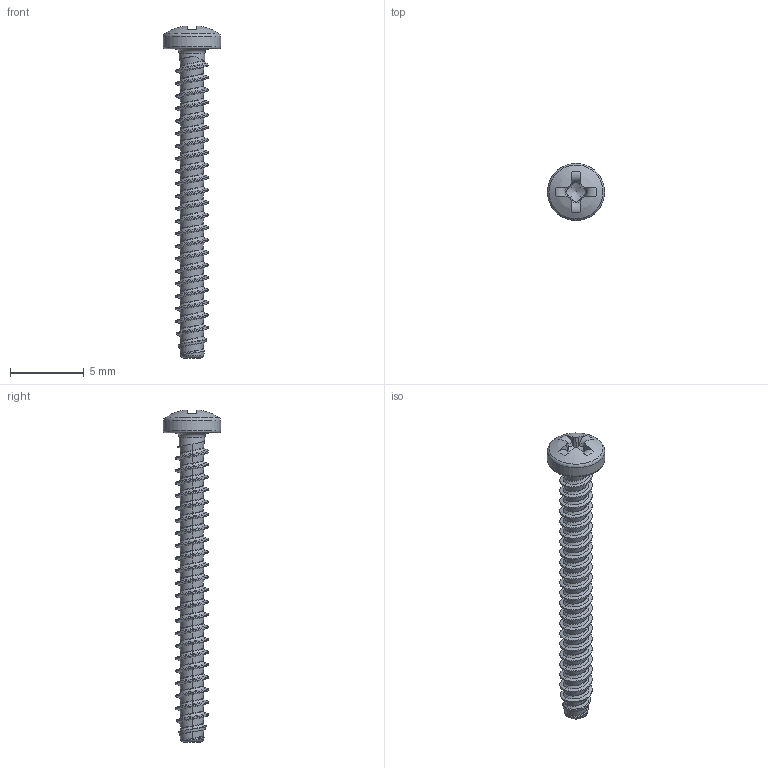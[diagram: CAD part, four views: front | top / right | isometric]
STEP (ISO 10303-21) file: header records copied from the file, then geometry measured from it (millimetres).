
FILE_DESCRIPTION(/* description */ (''),/* implementation_level */ '2;1');
FILE_NAME(/* name */ 'KN6032-STSplus-22x21-H1.step',/* time_stamp */ '2017-10-10T14:59:10+02:00',/* author */ (''),/* organization */ (''),/* preprocessor_version */ 'ST-DEVELOPER v16',/* originating_system */ 'SIEMENS PLM Software NX 10.0',/* authorisation */ '');
FILE_SCHEMA (('AUTOMOTIVE_DESIGN { 1 0 10303 214 3 1 1 1 }'));
Length unit declared in the file: millimetre
Products named in the file (1): KN6032-STSplus-22x21-H1
Bounding box: 3.9 x 3.9 x 22.55 mm (x, y, z)
Volume: 62.6 mm3; surface area: 208.1 mm2
Topology: 1 solids, 1 shells, 138 faces, 356 edges, 220 vertices
Faces by surface type: bspline 100, plane 18, torus 8, cone 7, cylinder 4, sphere 1
Full cylindrical faces by diameter (mm): 1.72 x1, 3.9 x1
Entity records: 10194 total; most frequent: CARTESIAN_POINT 7563, ORIENTED_EDGE 684, EDGE_CURVE 342, DIRECTION 264, VERTEX_POINT 215, B_SPLINE_CURVE_WITH_KNOTS 195, EDGE_LOOP 146, ADVANCED_FACE 138
